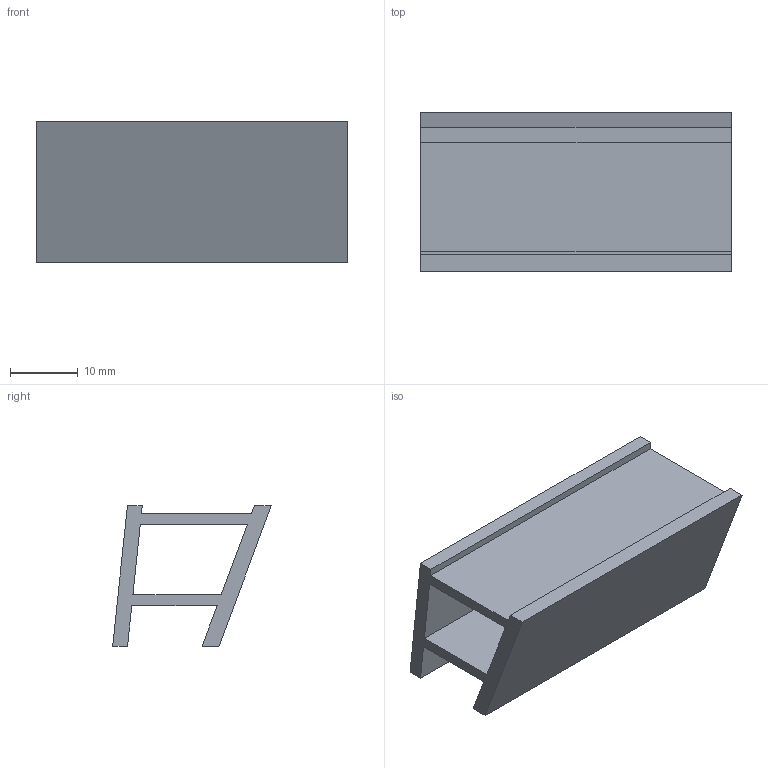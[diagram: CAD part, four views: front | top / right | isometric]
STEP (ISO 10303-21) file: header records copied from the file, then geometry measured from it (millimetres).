
FILE_DESCRIPTION(('Open CASCADE Model'),'2;1');
FILE_NAME('Open CASCADE Shape Model','2026-10-16T03:24:50',('Author'),( 'Open CASCADE'),'Open CASCADE STEP processor 7.9','Open CASCADE 7.9' ,'Unknown');
FILE_SCHEMA(('AUTOMOTIVE_DESIGN { 1 0 10303 214 1 1 1 1 }'));
Length unit declared in the file: millimetre
Products named in the file (1): Open CASCADE STEP translator 7.9 14
Bounding box: 46 x 23.49 x 20.83 mm (x, y, z)
Volume: 6633.1 mm3; surface area: 7049.5 mm2
Topology: 1 solids, 1 shells, 18 faces, 48 edges, 32 vertices
Faces by surface type: plane 18
Entity records: 1190 total; most frequent: CARTESIAN_POINT 195, DIRECTION 182, LINE 144, VECTOR 144, ORIENTED_EDGE 96, PCURVE 96, DEFINITIONAL_REPRESENTATION 96, EDGE_CURVE 48
